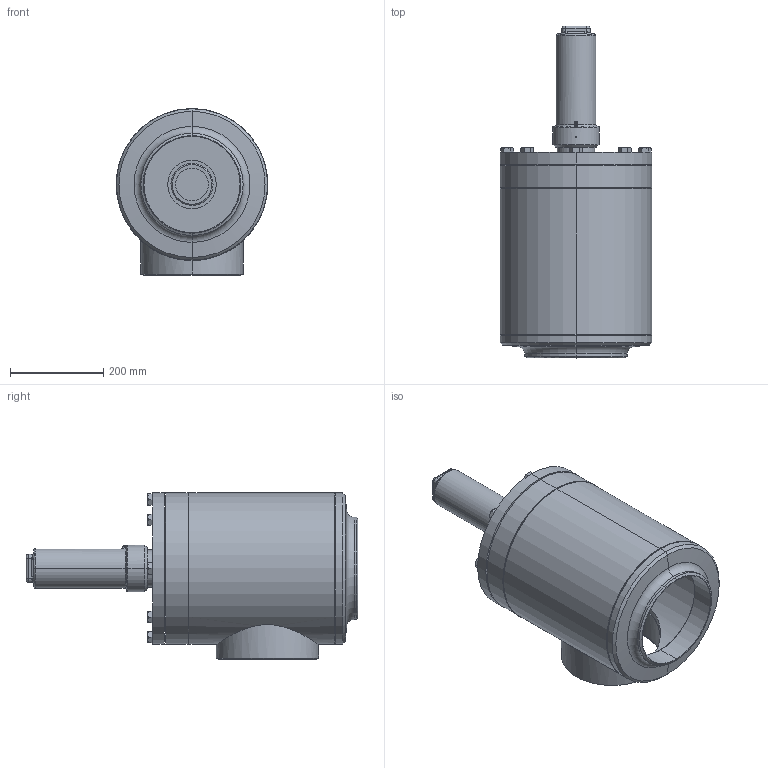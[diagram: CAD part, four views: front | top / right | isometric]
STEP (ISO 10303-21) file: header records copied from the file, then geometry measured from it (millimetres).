
FILE_DESCRIPTION (( 'STEP AP214' ), '1' );
FILE_NAME ('HRAR22400D23A5A3AA00_DN125_R1_PS40.STEP', '2010-06-16T11:25:01', ( 'Eckhard Grams' ), ( 'AWP Kälte Klima Armaturen GmbH' ), 'SwSTEP 2.0', 'SolidWorks 2002296', '' );
FILE_SCHEMA (( 'AUTOMOTIVE_DESIGN' ));
Length unit declared in the file: millimetre
Products named in the file (16): HRAR22400D23A5A3AA00_DN125_R1_PS40; Kappe 16402-23_DN200-350 (M80x3)_Standard; Geh,kpl 16300B23-5030AA1_DN200_R1_Standard; Kopfstück16300-DN200_Standard; Gehäuse16300-DN200_Standard; Boden16300a-23_R1_Standard; bead Geh,kpl 16300a-23-2_Standard; bead Geh,kpl 16300a-23-1_Standard; Rohrstutzen-A16300a-23_R1_Standard; AVR26300B23_Deck+Schr-DN200_Standard; Deckel,kpl26300B23-DN200_Standard; Scheibe f Deckel16300-DN200_Standard; bead-deck264-200_Standard; bead-deck263-200_Standard; Buchse f Deckel16300-DN200_Standard; Sechskantschraube-DIN933_M16x 45
Assembly tree (22 placements, depth 4):
  HRAR22400D23A5A3AA00_DN125_R1_PS40
    Kappe 16402-23_DN200-350 (M80x3)_Standard
    Geh,kpl 16300B23-5030AA1_DN200_R1_Standard
      Gehäuse16300-DN200_Standard
      Boden16300a-23_R1_Standard
      bead Geh,kpl 16300a-23-2_Standard
      Kopfstück16300-DN200_Standard
      bead Geh,kpl 16300a-23-1_Standard
      Rohrstutzen-A16300a-23_R1_Standard
    AVR26300B23_Deck+Schr-DN200_Standard
      Sechskantschraube-DIN933_M16x 45  x8
      Deckel,kpl26300B23-DN200_Standard
        bead-deck263-200_Standard
        Scheibe f Deckel16300-DN200_Standard
        bead-deck264-200_Standard
        Buchse f Deckel16300-DN200_Standard
Bounding box: 325 x 711 x 357.5 mm (x, y, z)
Volume: 11490234.4 mm3; surface area: 1620839.4 mm2
Topology: 19 solids, 19 shells, 421 faces, 907 edges, 543 vertices
Faces by surface type: cone 134, plane 120, cylinder 118, bspline 33, torus 16
Entity records: 23215 total; most frequent: CARTESIAN_POINT 16908, DIRECTION 1181, ORIENTED_EDGE 1086, EDGE_CURVE 543, AXIS2_PLACEMENT_3D 513, VERTEX_POINT 333, EDGE_LOOP 298, CIRCLE 272
